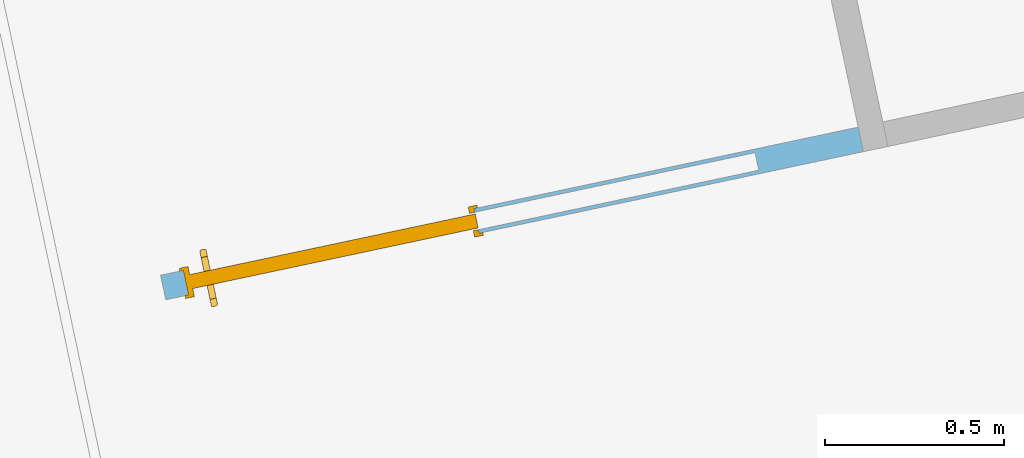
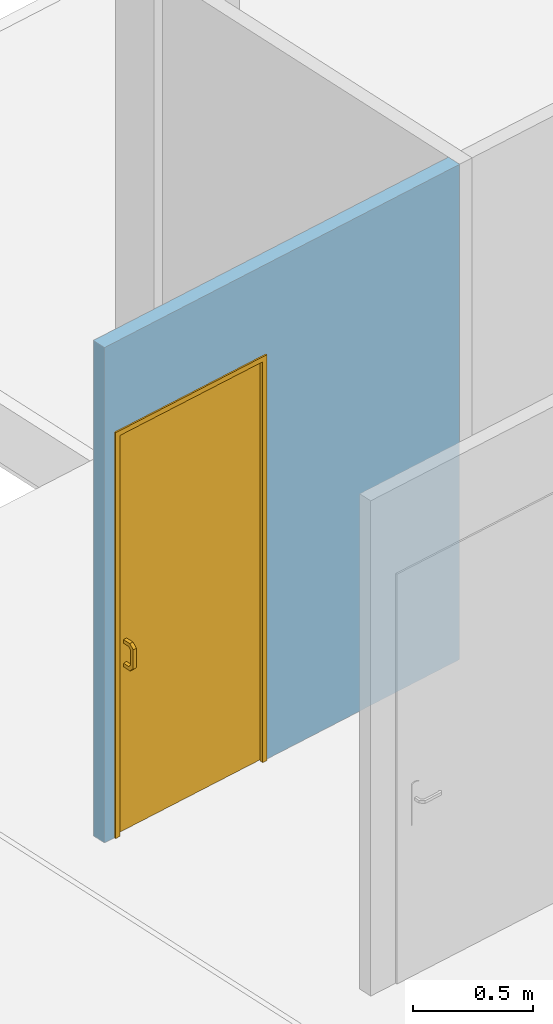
# One storey, part 8 of 11: 1 door, 1 opening, plus 1 element that does not belong to this part.
"""IFC2X3 building model written with IfcOpenShell, lengths in centimetres."""

import ifcopenshell
import ifcopenshell.guid

model = None  # the IFC model being written
_history = None  # IfcOwnerHistory: only IFC2X3 demands one
_inside = {}  # id of a spatial element -> (the spatial element, [elements in it])
_under = {}  # id of a project, library or spatial element -> (it, [spatial elements below it])
_declared = {}  # id of a project -> (the project, [libraries it declares])
_typed = {}  # id of a type object -> (the type object, [elements of that type])
_made_of = {}  # id of a material, layer set ... -> (it, [elements and type objects made of it])


def new_model(schema):
    """Start an empty IFC model of exactly this schema.

    Asked for "IFC4X3", IfcOpenShell would pick the latest addendum, in which some entities
    have other attributes; the version numbers below select the first issue.
    IFC2X3 requires an IfcOwnerHistory on every rooted entity: one is made here for all.
    """
    global model, _history
    if schema == "IFC4X3":
        model = ifcopenshell.file(schema_version=(4, 3, 0, 0))
    else:
        model = ifcopenshell.file(schema=schema)
    _inside.clear()
    _under.clear()
    _declared.clear()
    _typed.clear()
    _made_of.clear()
    _history = None
    if model.schema == "IFC2X3":
        org = make("IfcOrganization", Name="unknown")
        user = make(
            "IfcPersonAndOrganization",
            ThePerson=make("IfcPerson", FamilyName="unknown"),
            TheOrganization=org,
        )
        app = make(
            "IfcApplication",
            ApplicationDeveloper=org,
            Version="unknown",
            ApplicationFullName="unknown",
            ApplicationIdentifier="unknown",
        )
        _history = make(
            "IfcOwnerHistory",
            OwningUser=user,
            OwningApplication=app,
            ChangeAction="ADDED",
            CreationDate=0,
        )
    return model


def make(cls, **values):
    """One entity of the class cls with the attributes given. An attribute that is None is left unset."""
    return model.create_entity(
        cls, **{name: value for name, value in values.items() if value is not None}
    )


def entity(cls, *values):
    """Any entity or typed value of the class cls, its attributes in the order of the schema. None: left unset."""
    e = model.create_entity(cls)
    for i, value in enumerate(values):
        if value is not None:
            e[i] = value
    return e


def rooted(cls, **values):
    """An entity with a GlobalId (a new one), such as an element, a storey or a relation."""
    return make(cls, GlobalId=ifcopenshell.guid.new(), OwnerHistory=_history, **values)


def si_unit(unit_type, name, prefix=None):
    """IfcSIUnit, for example si_unit("LENGTHUNIT", "METRE", prefix="MILLI")."""
    return make("IfcSIUnit", UnitType=unit_type, Prefix=prefix, Name=name)


def converted_unit(unit_type, name, factor, base, dimensions=None, offset=None):
    """IfcConversionBasedUnit, such as the inch: factor (a typed value) times the base unit."""
    return make(
        "IfcConversionBasedUnit"
        if offset is None
        else "IfcConversionBasedUnitWithOffset",
        ConversionOffset=offset,
        Dimensions=None
        if dimensions is None
        else entity("IfcDimensionalExponents", *dimensions),
        UnitType=unit_type,
        Name=name,
        ConversionFactor=make(
            "IfcMeasureWithUnit", ValueComponent=factor, UnitComponent=base
        ),
    )


def derived_unit(unit_type, elements):
    """IfcDerivedUnit: a product of units, each with its exponent."""
    return make(
        "IfcDerivedUnit",
        Elements=[
            make("IfcDerivedUnitElement", Unit=unit, Exponent=power)
            for unit, power in elements
        ],
        UnitType=unit_type,
    )


def assignment(units):
    """IfcUnitAssignment: the units of a project."""
    return None if units is None else make("IfcUnitAssignment", Units=units)


def point(xyz):
    """IfcCartesianPoint."""
    return None if xyz is None else make("IfcCartesianPoint", Coordinates=xyz)


def direction(xyz):
    """IfcDirection."""
    return None if xyz is None else make("IfcDirection", DirectionRatios=xyz)


def frame(location, z_axis=None, x_axis=None):
    """IfcAxis2Placement3D, a coordinate frame: its origin and axes. An axis left out is left unset."""
    return make(
        "IfcAxis2Placement3D",
        Location=point(location),
        Axis=direction(z_axis),
        RefDirection=direction(x_axis),
    )


def frame_2d(location, x_axis=None):
    """IfcAxis2Placement2D, a coordinate frame in the plane: its origin and x axis."""
    return make(
        "IfcAxis2Placement2D", Location=point(location), RefDirection=direction(x_axis)
    )


def origin():
    """The frame at (0, 0, 0) with its axes left unset."""
    return frame((0.0, 0.0, 0.0))


def place(relative_to, where):
    """IfcLocalPlacement: puts the frame where relative to a parent placement (None: the world)."""
    return make(
        "IfcLocalPlacement", PlacementRelTo=relative_to, RelativePlacement=where
    )


def context(
    kind, dimensions, precision=None, world=None, true_north=None, identifier=None
):
    """IfcGeometricRepresentationContext, for example the 3D "Model" context."""
    return make(
        "IfcGeometricRepresentationContext",
        ContextIdentifier=identifier,
        ContextType=kind,
        CoordinateSpaceDimension=dimensions,
        Precision=precision,
        WorldCoordinateSystem=world,
        TrueNorth=true_north,
    )


def subcontext(parent, identifier, kind, view, scale=None):
    """IfcGeometricRepresentationSubContext, for example "Body" below "Model"."""
    return make(
        "IfcGeometricRepresentationSubContext",
        ContextIdentifier=identifier,
        ContextType=kind,
        ParentContext=parent,
        TargetScale=scale,
        TargetView=view,
    )


def project(units=None, contexts=None):
    """IfcProject with its units and contexts."""
    return rooted(
        "IfcProject",
        Name="project",
        RepresentationContexts=contexts,
        UnitsInContext=assignment(units),
    )


def spatial(cls, under=None, at=None, **own):
    """A site, building, storey or space (cls), placed at a placement, below another one or the project."""
    s = rooted(cls, ObjectPlacement=at, **own)
    if under is not None:
        _under.setdefault(under.id(), (under, []))[1].append(s)
    return s


def profile(cls, at=None, kind="AREA", **sizes):
    """A parametric profile (cls). Its sizes go by their IFC names, for example OverallWidth=200.0."""
    return make(cls, ProfileType=kind, Position=at, **sizes)


def rectangle(**sizes):
    """IfcRectangleProfileDef."""
    return profile("IfcRectangleProfileDef", **sizes)


def extrude(swept, where, along, depth):
    """IfcExtrudedAreaSolid: the profile swept, set in the frame where, extruded along a direction by depth."""
    return make(
        "IfcExtrudedAreaSolid",
        SweptArea=swept,
        Position=where,
        ExtrudedDirection=direction(along),
        Depth=depth,
    )


def faces_of(points, faces, orient=None, outer=None):
    """IfcFace entities. A face is a list of loops; a loop is a list of indices into points, from 0.

    orient and outer hold one flag for each loop. By default every Orientation is true, the
    first loop of a face is its IfcFaceOuterBound and the others are IfcFaceBound.
    """
    made = []
    for i, loops in enumerate(faces):
        bounds = []
        for j, loop in enumerate(loops):
            is_outer = j == 0 if outer is None else outer[i][j]
            bounds.append(
                make(
                    "IfcFaceOuterBound" if is_outer else "IfcFaceBound",
                    Bound=make("IfcPolyLoop", Polygon=[points[k] for k in loop]),
                    Orientation=True if orient is None else orient[i][j],
                )
            )
        made.append(make("IfcFace", Bounds=bounds))
    return made


def faceted_brep(points, faces, orient=None, outer=None, voids=None):
    """IfcFacetedBrep: a solid bounded by flat faces; with voids (closed shells), ...WithVoids."""
    shared = [point(p) for p in points]
    hull = make("IfcClosedShell", CfsFaces=faces_of(shared, faces, orient, outer))
    if voids is None:
        return make("IfcFacetedBrep", Outer=hull)
    return make(
        "IfcFacetedBrepWithVoids",
        Outer=hull,
        Voids=[
            make(cls, CfsFaces=faces_of(shared, fs, o, b)) for cls, fs, o, b in voids
        ],
    )


def shape(context_of_items, identifier, shape_type, items):
    """IfcShapeRepresentation: the items that make up one representation, for example the "Body"."""
    return make(
        "IfcShapeRepresentation",
        ContextOfItems=context_of_items,
        RepresentationIdentifier=identifier,
        RepresentationType=shape_type,
        Items=items,
    )


def source(mapping_origin, context_of_items, identifier, shape_type, items):
    """IfcRepresentationMap: a shape defined once, which mapped items show again and again."""
    return make(
        "IfcRepresentationMap",
        MappingOrigin=mapping_origin,
        MappedRepresentation=shape(context_of_items, identifier, shape_type, items),
    )


def transform(
    local_origin,
    x_axis=None,
    y_axis=None,
    z_axis=None,
    scale=None,
    scale2=None,
    scale3=None,
    uniform=True,
):
    """IfcCartesianTransformationOperator3D, or its non-uniform kind. x_axis, y_axis, z_axis: its Axis1, 2, 3."""
    if uniform:
        return make(
            "IfcCartesianTransformationOperator3D",
            Axis1=direction(x_axis),
            Axis2=direction(y_axis),
            LocalOrigin=point(local_origin),
            Scale=scale,
            Axis3=direction(z_axis),
        )
    return make(
        "IfcCartesianTransformationOperator3DnonUniform",
        Axis1=direction(x_axis),
        Axis2=direction(y_axis),
        LocalOrigin=point(local_origin),
        Scale=scale,
        Axis3=direction(z_axis),
        Scale2=scale2,
        Scale3=scale3,
    )


def mapped(mapping_source, mapping_target):
    """IfcMappedItem: shows the shape of a source again, moved by a transform."""
    return make(
        "IfcMappedItem", MappingSource=mapping_source, MappingTarget=mapping_target
    )


def material(Name=None, Category=None):
    """IfcMaterial."""
    return make("IfcMaterial", Name=Name, Category=Category)


def layer(
    of_material, thickness, ventilated=None, Name=None, Category=None, Priority=None
):
    """IfcMaterialLayer: one layer of a wall or slab, of a material (None: an air gap)."""
    return make(
        "IfcMaterialLayer",
        Material=of_material,
        LayerThickness=thickness,
        IsVentilated=ventilated,
        Name=Name,
        Category=Category,
        Priority=Priority,
    )


def layer_set(layers, Name=None):
    """IfcMaterialLayerSet."""
    return make("IfcMaterialLayerSet", MaterialLayers=layers, LayerSetName=Name)


def layer_usage(for_layer_set, set_direction, sense, offset, extent=None):
    """IfcMaterialLayerSetUsage: how a layer set lies in its element."""
    return make(
        "IfcMaterialLayerSetUsage",
        ForLayerSet=for_layer_set,
        LayerSetDirection=set_direction,
        DirectionSense=sense,
        OffsetFromReferenceLine=offset,
        ReferenceExtent=extent,
    )


def made_of(thing, what):
    """Note that an element or type object is made of a material, layer set ...; save() writes the relation."""
    if what is not None:
        _made_of.setdefault(what.id(), (what, []))[1].append(thing)
    return thing


def type_object(cls, material=None, **own):
    """A type object (cls), such as IfcWallType, which elements share."""
    return made_of(rooted(cls, **own), material)


def type_shapes(of_type, sources):
    """Give a type object the sources (RepresentationMaps) that its elements show as mapped items."""
    of_type.RepresentationMaps = sources


def element(
    cls,
    number,
    at=None,
    inside=None,
    cuts=None,
    type_object=None,
    material=None,
    context=None,
    identifier="Body",
    shape_type=None,
    held_by="IfcProductDefinitionShape",
    body=None,
    shapes=None,
    **own,
):
    """One element of the class cls, such as IfcWall. Its Tag is "e" and its number.

    at: its placement. inside: the storey or other place that contains it. cuts: it is an
    opening in that element (IfcRelVoidsElement). A single representation is given by context,
    identifier, shape_type and body (its items); several are given by shapes. held_by: the class
    of the entity that holds the representations. save() writes the other relations.
    """
    e = rooted(cls, Tag="e%d" % number, ObjectPlacement=at, **own)
    if body is not None:
        shapes = [shape(context, identifier, shape_type, body)]
    if shapes is not None:
        e.Representation = make(held_by, Representations=shapes)
    if inside is not None:
        _inside.setdefault(inside.id(), (inside, []))[1].append(e)
    if cuts is not None:
        rooted(
            "IfcRelVoidsElement", RelatingBuildingElement=cuts, RelatedOpeningElement=e
        )
    if type_object is not None:
        _typed.setdefault(type_object.id(), (type_object, []))[1].append(e)
    return made_of(e, material)


def fill(opening, filler):
    """IfcRelFillsElement: the door or window that sits in an opening."""
    return rooted(
        "IfcRelFillsElement",
        RelatingOpeningElement=opening,
        RelatedBuildingElement=filler,
    )


def aggregate(whole, parts):
    """IfcRelAggregates: a whole, such as a stair, and the parts it consists of."""
    return rooted("IfcRelAggregates", RelatingObject=whole, RelatedObjects=parts)


def save(model, path):
    """Write the relations noted so far, then the file.

    IfcRelAggregates (storeys below a building ...), IfcRelContainedInSpatialStructure (elements
    in a storey), IfcRelDefinesByType, IfcRelAssociatesMaterial and IfcRelDeclares: one each for
    every whole, place, type object, material and project.
    """
    for whole, parts in _under.values():
        aggregate(whole, parts)
    for where, things in _inside.values():
        rooted(
            "IfcRelContainedInSpatialStructure",
            RelatedElements=things,
            RelatingStructure=where,
        )
    for kind, things in _typed.values():
        rooted("IfcRelDefinesByType", RelatedObjects=things, RelatingType=kind)
    for what, things in _made_of.values():
        rooted("IfcRelAssociatesMaterial", RelatedObjects=things, RelatingMaterial=what)
    for by, libraries in _declared.values():
        rooted("IfcRelDeclares", RelatingContext=by, RelatedDefinitions=libraries)
    model.write(path)


model = new_model("IFC2X3")

# Units and contexts
model_context = context("Model", 3, precision=0.001, world=origin(), true_north=direction((6.12303176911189e-17, 1.0)))
body_context = subcontext(model_context, "Body", "Model", "MODEL_VIEW")
ifc_project = project(units=[si_unit("LENGTHUNIT", "METRE", prefix="CENTI"), si_unit("AREAUNIT", "SQUARE_METRE"), si_unit("VOLUMEUNIT", "CUBIC_METRE"), converted_unit("PLANEANGLEUNIT", "DEGREE", entity("IfcRatioMeasure", 0.0174532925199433), si_unit("PLANEANGLEUNIT", "RADIAN"), dimensions=[0, 0, 0, 0, 0, 0, 0]), si_unit("MASSUNIT", "GRAM", prefix="KILO"), derived_unit("MASSDENSITYUNIT", [(si_unit("MASSUNIT", "GRAM", prefix="KILO"), 1), (si_unit("LENGTHUNIT", "METRE"), -3)]), derived_unit("IONCONCENTRATIONUNIT", [(si_unit("MASSUNIT", "GRAM", prefix="KILO"), 1), (si_unit("LENGTHUNIT", "METRE"), -3)]), derived_unit("MOMENTOFINERTIAUNIT", [(si_unit("LENGTHUNIT", "METRE"), 4)]), si_unit("TIMEUNIT", "SECOND"), si_unit("FREQUENCYUNIT", "HERTZ"), si_unit("THERMODYNAMICTEMPERATUREUNIT", "DEGREE_CELSIUS"), derived_unit("THERMALTRANSMITTANCEUNIT", [(si_unit("MASSUNIT", "GRAM", prefix="KILO"), 1), (si_unit("THERMODYNAMICTEMPERATUREUNIT", "KELVIN"), -1), (si_unit("TIMEUNIT", "SECOND"), -3)]), derived_unit("THERMALCONDUCTANCEUNIT", [(si_unit("MASSUNIT", "GRAM", prefix="KILO"), 1), (si_unit("THERMODYNAMICTEMPERATUREUNIT", "KELVIN"), -1), (si_unit("TIMEUNIT", "SECOND"), -3), (si_unit("LENGTHUNIT", "METRE"), 1)]), derived_unit("VOLUMETRICFLOWRATEUNIT", [(si_unit("LENGTHUNIT", "METRE"), 3), (si_unit("TIMEUNIT", "SECOND"), -1)]), derived_unit("MASSFLOWRATEUNIT", [(si_unit("MASSUNIT", "GRAM", prefix="KILO"), 1), (si_unit("TIMEUNIT", "SECOND"), -1)]), derived_unit("ROTATIONALFREQUENCYUNIT", [(si_unit("TIMEUNIT", "SECOND"), -1)]), si_unit("ELECTRICCURRENTUNIT", "AMPERE"), si_unit("ELECTRICVOLTAGEUNIT", "VOLT"), si_unit("POWERUNIT", "WATT"), si_unit("FORCEUNIT", "NEWTON", prefix="KILO"), si_unit("ILLUMINANCEUNIT", "LUX"), si_unit("LUMINOUSFLUXUNIT", "LUMEN"), si_unit("LUMINOUSINTENSITYUNIT", "CANDELA"), derived_unit("USERDEFINED", [(si_unit("MASSUNIT", "GRAM", prefix="KILO"), -1), (si_unit("LENGTHUNIT", "METRE"), -2), (si_unit("TIMEUNIT", "SECOND"), 3), (si_unit("LUMINOUSFLUXUNIT", "LUMEN"), 1)]), derived_unit("USERDEFINED", [(si_unit("MASSUNIT", "GRAM", prefix="KILO"), 1), (si_unit("TIMEUNIT", "SECOND"), -3), (si_unit("LENGTHUNIT", "METRE"), 3), (si_unit("ELECTRICCURRENTUNIT", "AMPERE"), -2)]), derived_unit("SOUNDPOWERUNIT", [(si_unit("MASSUNIT", "GRAM", prefix="KILO"), 1), (si_unit("TIMEUNIT", "SECOND"), -3), (si_unit("LENGTHUNIT", "METRE"), 2)]), derived_unit("SOUNDPRESSUREUNIT", [(si_unit("MASSUNIT", "GRAM", prefix="KILO"), 1), (si_unit("LENGTHUNIT", "METRE"), -1), (si_unit("TIMEUNIT", "SECOND"), -2)]), derived_unit("LINEARVELOCITYUNIT", [(si_unit("LENGTHUNIT", "METRE"), 1), (si_unit("TIMEUNIT", "SECOND"), -1)]), si_unit("PRESSUREUNIT", "PASCAL"), derived_unit("USERDEFINED", [(si_unit("MASSUNIT", "GRAM", prefix="KILO"), 1), (si_unit("LENGTHUNIT", "METRE"), -2), (si_unit("TIMEUNIT", "SECOND"), -2)]), derived_unit("LINEARFORCEUNIT", [(si_unit("MASSUNIT", "GRAM", prefix="KILO"), 1), (si_unit("TIMEUNIT", "SECOND"), -2)]), derived_unit("PLANARFORCEUNIT", [(si_unit("MASSUNIT", "GRAM", prefix="KILO"), 1), (si_unit("LENGTHUNIT", "METRE"), -1), (si_unit("TIMEUNIT", "SECOND"), -2)]), derived_unit("SPECIFICHEATCAPACITYUNIT", [(si_unit("THERMODYNAMICTEMPERATUREUNIT", "KELVIN"), -1), (si_unit("LENGTHUNIT", "METRE"), 2), (si_unit("TIMEUNIT", "SECOND"), -2)]), derived_unit("HEATINGVALUEUNIT", [(si_unit("LENGTHUNIT", "METRE"), 2), (si_unit("TIMEUNIT", "SECOND"), -2)]), derived_unit("VAPORPERMEABILITYUNIT", [(si_unit("LENGTHUNIT", "METRE"), -1), (si_unit("TIMEUNIT", "SECOND"), 1)]), derived_unit("DYNAMICVISCOSITYUNIT", [(si_unit("MASSUNIT", "GRAM", prefix="KILO"), 1), (si_unit("TIMEUNIT", "SECOND"), -1), (si_unit("LENGTHUNIT", "METRE"), -1)]), derived_unit("THERMALEXPANSIONCOEFFICIENTUNIT", [(si_unit("THERMODYNAMICTEMPERATUREUNIT", "KELVIN"), -1)]), derived_unit("MODULUSOFELASTICITYUNIT", [(si_unit("MASSUNIT", "GRAM", prefix="KILO"), 1), (si_unit("LENGTHUNIT", "METRE"), -1), (si_unit("TIMEUNIT", "SECOND"), -2)]), derived_unit("ISOTHERMALMOISTURECAPACITYUNIT", [(si_unit("LENGTHUNIT", "METRE"), 3), (si_unit("MASSUNIT", "GRAM", prefix="KILO"), -1)]), derived_unit("MOISTUREDIFFUSIVITYUNIT", [(si_unit("TIMEUNIT", "SECOND"), -1), (si_unit("LENGTHUNIT", "METRE"), 2)])], contexts=[model_context])

# Site, building, storey
site_placement = place(None, frame((14083.8920177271, -6853.25409548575, 6900.0), z_axis=(0.0, 0.0, 1.0), x_axis=(0.978188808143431, 0.207717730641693, 0.0)))
site = spatial("IfcSite", under=ifc_project, at=site_placement, Name="Surface", CompositionType="ELEMENT")
building_placement = place(site_placement, origin())
building = spatial("IfcBuilding", under=site, at=building_placement, CompositionType="ELEMENT")
storey_placement = place(building_placement, frame((0.0, 0.0, 17.0)))
storey = spatial("IfcBuildingStorey", under=building, at=storey_placement, Name="Rez de chaussée", CompositionType="ELEMENT", Elevation=17.0000000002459)

# Wall, opening, door
ifc_material_1 = material(Name="__ BA 13")
ifc_layer = layer(ifc_material_1, 7.0)
ifc_layer_set = layer_set([ifc_layer], Name="Mur de base:*Cloison 72/48 cm")
ifc_layer_usage = layer_usage(ifc_layer_set, "AXIS2", "NEGATIVE", 3.5)
wall_type = type_object("IfcWallType", Name="Mur de base:*Cloison 72/48 cm", PredefinedType="STANDARD", material=ifc_layer_set)
wall_placement = place(storey_placement, frame((-7508.79714756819, 15232.1673447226, 0.0), z_axis=(0.0, 0.0, 1.0), x_axis=(-1.0, 0.0, 0.0)))
wall = element("IfcWallStandardCase", 1, at=wall_placement, inside=storey, type_object=wall_type, material=ifc_layer_usage, Name="Mur de base:*Cloison 72/48 cm", ObjectType="Mur de base:*Cloison 72/48 cm", context=body_context, shape_type="SweptSolid", body=[
    extrude(rectangle(XDim=199.157995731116, YDim=7.00000000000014, at=frame_2d((99.5789978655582, -1.3899992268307e-12), x_axis=(1.0, 0.0))), origin(), (0.0, 0.0, 1.0), 251.999999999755),
])
opening_placement = place(wall_placement, frame((192.657995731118, 18.5000000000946, 0.0), z_axis=(0.0, 0.0, 1.0), x_axis=(-1.0, 0.0, 0.0)))
opening = element("IfcOpeningElement", 2, at=opening_placement, cuts=wall, Name="Mur de base:*Cloison 72/48 cm", ObjectType="Opening", context=body_context, shape_type="Brep", body=[
    faceted_brep([(83.0, 37.0, 205.5), (0.0, 37.0, 205.5), (0.0, 0.0, 205.5), (83.0, 0.0, 205.5), (83.0, 16.0, 205.5), (163.0, 16.0, 205.5), (163.0, 21.0, 205.5), (83.0, 21.0, 205.5), (83.0, 37.0, 0.0), (83.0, 21.0, 0.0), (163.0, 21.0, 0.0), (163.0, 16.0, 0.0), (83.0, 16.0, 0.0), (83.0, 0.0, 0.0), (0.0, 0.0, 0.0), (0.0, 37.0, 0.0)], [[[0, 1, 2, 3, 4, 5, 6, 7]], [[8, 9, 10, 11, 12, 13, 14, 15]], [[1, 0, 8, 15]], [[2, 1, 15, 14]], [[3, 2, 14, 13]], [[4, 3, 13, 12]], [[5, 4, 12, 11]], [[6, 5, 11, 10]], [[7, 6, 10, 9]], [[0, 7, 9, 8]]]),
])
ifc_material_2 = material(Name="<Unnamed>")
door_style = type_object("IfcDoorStyle", Name="*Coulissante - Encastrée:PC 80 x 204 (galandage)", ConstructionType="NOTDEFINED", OperationType="SLIDING_TO_LEFT", ParameterTakesPrecedence=False, Sizeable=False, material=ifc_material_2)
shared_shape = source(origin(), body_context, "Body", "Brep", [
    faceted_brep([(156.963922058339, -16.5000000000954, 94.9316602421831), (157.4, -16.5000000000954, 95.1000000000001), (157.4, -16.5000000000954, 96.9), (156.963922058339, -16.5000000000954, 97.068339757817), (156.5, -16.5000000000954, 97.1255985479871), (156.036077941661, -16.5000000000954, 97.068339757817), (155.6, -16.5000000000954, 96.9), (155.6, -16.5000000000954, 95.1000000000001), (156.036077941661, -16.5000000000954, 94.931660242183), (156.5, -16.5000000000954, 94.874401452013), (156.963922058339, -16.5000000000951, 82.9316602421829), (157.4, -16.5000000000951, 83.1), (157.4, -16.5000000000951, 84.8999999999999), (156.963922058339, -16.5000000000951, 85.0683397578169), (156.5, -16.5000000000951, 85.125598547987), (156.036077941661, -16.5000000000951, 85.0683397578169), (155.6, -16.5000000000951, 84.8999999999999), (155.6, -16.5000000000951, 83.1), (156.036077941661, -16.5000000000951, 82.9316602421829), (156.5, -16.5000000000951, 82.8744014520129), (155.6, -13.3727922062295, 84.8999999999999), (155.6, -12.4000000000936, 85.8727922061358), (155.6, -12.4000000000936, 94.1272077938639), (155.6, -13.3727922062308, 95.1000000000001), (155.6, -12.6272077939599, 96.9), (155.6, -10.6000000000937, 94.8727922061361), (155.6, -10.6000000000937, 85.1272077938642), (155.6, -12.6272077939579, 83.1), (156.036077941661, -12.5574791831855, 97.068339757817), (156.5, -12.533761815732, 97.1255985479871), (156.963922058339, -12.5574791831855, 97.068339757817), (157.4, -12.6272077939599, 96.9), (157.4, -13.3727922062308, 95.1000000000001), (157.4, -12.4000000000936, 94.1272077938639), (157.4, -12.4000000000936, 85.8727922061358), (157.4, -13.3727922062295, 84.8999999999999), (157.4, -12.6272077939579, 83.1), (157.4, -10.6000000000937, 85.1272077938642), (157.4, -10.6000000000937, 94.8727922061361), (156.963922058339, -13.4425208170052, 94.9316602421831), (156.5, -13.4662381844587, 94.874401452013), (156.036077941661, -13.4425208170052, 94.931660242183), (156.036077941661, -10.4316602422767, 94.9425208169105), (156.5, -10.3744014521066, 94.9662381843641), (156.963922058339, -10.4316602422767, 94.9425208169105), (156.963922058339, -12.5683397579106, 94.0574791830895), (156.5, -12.6255985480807, 94.0337618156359), (156.036077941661, -12.5683397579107, 94.0574791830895), (156.036077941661, -10.4316602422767, 85.0574791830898), (156.5, -10.3744014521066, 85.0337618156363), (156.963922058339, -10.4316602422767, 85.0574791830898), (156.963922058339, -12.5683397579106, 85.9425208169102), (156.5, -12.6255985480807, 85.9662381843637), (156.036077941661, -12.5683397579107, 85.9425208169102), (156.036077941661, -12.5574791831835, 82.9316602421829), (156.5, -12.53376181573, 82.8744014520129), (156.963922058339, -12.5574791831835, 82.9316602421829), (156.963922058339, -13.4425208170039, 85.0683397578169), (156.5, -13.4662381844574, 85.125598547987), (156.036077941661, -13.4425208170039, 85.0683397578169)], [[[0, 1, 2, 3, 4, 5, 6, 7, 8, 9]], [[10, 11, 12, 13, 14, 15, 16, 17, 18, 19]], [[16, 20, 21, 22, 23, 7, 6, 24, 25, 26, 27, 17]], [[5, 28, 24, 6]], [[4, 29, 28, 5]], [[4, 3, 30, 29]], [[2, 31, 30, 3]], [[1, 32, 33, 34, 35, 12, 11, 36, 37, 38, 31, 2]], [[1, 0, 39, 32]], [[40, 39, 0, 9]], [[7, 23, 41, 8]], [[40, 9, 8, 41]], [[24, 28, 42, 25]], [[29, 43, 42, 28]], [[30, 44, 43, 29]], [[30, 31, 38, 44]], [[32, 39, 45, 33]], [[46, 45, 39, 40]], [[41, 23, 22, 47]], [[47, 46, 40, 41]], [[42, 48, 26, 25]], [[43, 49, 48, 42]], [[44, 50, 49, 43]], [[44, 38, 37, 50]], [[45, 51, 34, 33]], [[51, 45, 46, 52]], [[22, 21, 53, 47]], [[52, 46, 47, 53]], [[26, 48, 54, 27]], [[49, 55, 54, 48]], [[50, 56, 55, 49]], [[50, 37, 36, 56]], [[34, 51, 57, 35]], [[58, 57, 51, 52]], [[53, 21, 20, 59]], [[59, 58, 52, 53]], [[27, 54, 18, 17]], [[19, 18, 54, 55]], [[36, 11, 10, 56]], [[19, 55, 56, 10]], [[57, 13, 12, 35]], [[13, 57, 58, 14]], [[59, 20, 16, 15]], [[15, 14, 58, 59]]]),
    faceted_brep([(156.5, -20.5000000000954, 97.1255985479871), (156.963922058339, -20.5000000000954, 97.068339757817), (157.4, -20.5000000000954, 96.9), (157.4, -20.5000000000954, 95.1000000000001), (156.963922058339, -20.5000000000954, 94.931660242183), (156.5, -20.5000000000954, 94.874401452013), (156.036077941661, -20.5000000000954, 94.931660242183), (155.6, -20.5000000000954, 95.1000000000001), (155.6, -20.5000000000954, 96.9), (156.036077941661, -20.5000000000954, 97.068339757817), (156.963922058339, -20.5000000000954, 85.0683397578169), (157.4, -20.5000000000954, 84.8999999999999), (157.4, -20.5000000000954, 83.1), (156.963922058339, -20.5000000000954, 82.9316602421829), (156.5, -20.5000000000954, 82.8744014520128), (156.036077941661, -20.5000000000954, 82.9316602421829), (155.6, -20.5000000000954, 83.1), (155.6, -20.5000000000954, 84.8999999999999), (156.036077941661, -20.5000000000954, 85.0683397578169), (156.5, -20.5000000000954, 85.125598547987), (156.963922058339, -24.4425208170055, 97.068339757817), (157.4, -24.3727922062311, 96.9), (156.5, -24.4662381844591, 97.1255985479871), (156.036077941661, -24.4425208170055, 97.0683397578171), (155.6, -24.3727922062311, 96.9), (155.6, -23.6272077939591, 95.1000000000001), (155.6, -24.6000000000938, 94.1272077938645), (155.6, -24.6000000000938, 85.8727922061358), (155.6, -23.6272077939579, 84.8999999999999), (155.6, -24.3727922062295, 83.1), (155.6, -26.4000000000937, 85.1272077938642), (155.6, -26.4000000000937, 94.8727922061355), (156.036077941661, -23.5574791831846, 94.931660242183), (156.5, -23.5337618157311, 94.874401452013), (157.4, -23.6272077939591, 95.1000000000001), (156.963922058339, -23.5574791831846, 94.931660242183), (157.4, -23.6272077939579, 84.8999999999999), (157.4, -24.6000000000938, 85.8727922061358), (157.4, -24.6000000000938, 94.1272077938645), (157.4, -26.4000000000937, 94.8727922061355), (157.4, -26.4000000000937, 85.1272077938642), (157.4, -24.3727922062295, 83.1), (156.963922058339, -26.5683397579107, 94.9425208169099), (156.5, -26.6255985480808, 94.9662381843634), (156.036077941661, -26.5683397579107, 94.9425208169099), (156.036077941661, -24.4316602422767, 94.0574791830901), (156.5, -24.3744014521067, 94.0337618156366), (156.963922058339, -24.4316602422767, 94.0574791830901), (156.963922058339, -26.5683397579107, 85.0574791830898), (156.5, -26.6255985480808, 85.0337618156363), (156.036077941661, -26.5683397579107, 85.0574791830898), (156.036077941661, -24.4316602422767, 85.9425208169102), (156.5, -24.3744014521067, 85.9662381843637), (156.963922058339, -24.4316602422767, 85.9425208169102), (156.963922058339, -24.4425208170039, 82.9316602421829), (156.5, -24.4662381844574, 82.8744014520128), (156.036077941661, -24.4425208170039, 82.9316602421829), (156.036077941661, -23.5574791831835, 85.0683397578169), (156.5, -23.53376181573, 85.125598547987), (156.963922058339, -23.5574791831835, 85.0683397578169)], [[[0, 1, 2, 3, 4, 5, 6, 7, 8, 9]], [[10, 11, 12, 13, 14, 15, 16, 17, 18, 19]], [[1, 20, 21, 2]], [[0, 22, 20, 1]], [[0, 9, 23, 22]], [[8, 24, 23, 9]], [[7, 25, 26, 27, 28, 17, 16, 29, 30, 31, 24, 8]], [[7, 6, 32, 25]], [[33, 32, 6, 5]], [[3, 34, 35, 4]], [[33, 5, 4, 35]], [[11, 36, 37, 38, 34, 3, 2, 21, 39, 40, 41, 12]], [[20, 42, 39, 21]], [[22, 43, 42, 20]], [[23, 44, 43, 22]], [[23, 24, 31, 44]], [[25, 32, 45, 26]], [[46, 45, 32, 33]], [[35, 34, 38, 47]], [[47, 46, 33, 35]], [[42, 48, 40, 39]], [[43, 49, 48, 42]], [[44, 50, 49, 43]], [[44, 31, 30, 50]], [[45, 51, 27, 26]], [[51, 45, 46, 52]], [[38, 37, 53, 47]], [[52, 46, 47, 53]], [[48, 54, 41, 40]], [[49, 55, 54, 48]], [[50, 56, 55, 49]], [[50, 30, 29, 56]], [[27, 51, 57, 28]], [[58, 57, 51, 52]], [[53, 37, 36, 59]], [[59, 58, 52, 53]], [[41, 54, 13, 12]], [[14, 13, 54, 55]], [[29, 16, 15, 56]], [[14, 55, 56, 15]], [[57, 18, 17, 28]], [[18, 57, 58, 19]], [[59, 36, 11, 10]], [[10, 19, 58, 59]]]),
    faceted_brep([(161.5, -20.5000000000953, 204.0), (161.5, -16.5000000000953, 204.0), (80.0, -16.5000000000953, 204.0), (80.0, -20.5000000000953, 204.0), (161.5, -20.5000000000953, 0.0), (80.0, -20.5000000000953, 0.0), (80.0, -16.5000000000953, 0.0), (161.5, -16.5000000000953, 0.0)], [[[0, 1, 2, 3]], [[4, 5, 6, 7]], [[1, 0, 4, 7]], [[2, 1, 7, 6]], [[3, 2, 6, 5]], [[0, 3, 5, 4]]]),
    faceted_brep([(80.0, -15.0, 0.0), (79.0, -15.0, 0.0), (79.0, -14.2000000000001, 0.0), (81.5, -14.2000000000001, 0.0), (81.5, -16.0, 0.0), (80.0, -16.0, 0.0), (80.0, -15.0, 205.5), (163.0, -15.0, 205.5), (163.0, -15.0, 0.0), (164.0, -15.0, 0.0), (164.0, -15.0, 206.5), (79.0, -15.0, 206.5), (79.0, -14.2000000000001, 206.5), (164.0, -14.2000000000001, 206.5), (164.0, -14.2000000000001, 0.0), (161.5, -14.2000000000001, 0.0), (161.5, -14.2000000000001, 204.0), (81.5, -14.2000000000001, 204.0), (81.5, -16.0, 204.0), (80.0, -16.0, 204.0), (80.0, -22.0, 0.0), (80.0, -22.0, 205.5), (80.0, -21.0, 204.0), (80.0, -21.0, 0.0), (79.0, -22.8000000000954, 0.0), (81.5, -22.8000000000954, 0.0), (81.5, -22.8000000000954, 204.0), (161.5, -22.8000000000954, 204.0), (161.5, -22.8000000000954, 0.0), (164.0, -22.8000000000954, 0.0), (164.0, -22.8000000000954, 206.5), (79.0, -22.8000000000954, 206.5), (79.0, -22.0, 0.0), (79.0, -22.0, 206.5), (164.0, -22.0, 206.5), (164.0, -22.0, 0.0), (163.0, -22.0, 0.0), (163.0, -22.0, 205.5), (81.5, -21.0, 204.0), (81.5, -21.0, 0.0)], [[[0, 1, 2, 3, 4, 5]], [[1, 0, 6, 7, 8, 9, 10, 11]], [[2, 1, 11, 12]], [[3, 2, 12, 13, 14, 15, 16, 17]], [[3, 17, 18, 4]], [[18, 19, 5, 4]], [[20, 21, 6, 0, 5, 19, 22, 23]], [[24, 25, 26, 27, 28, 29, 30, 31]], [[32, 24, 31, 33]], [[20, 32, 33, 34, 35, 36, 37, 21]], [[22, 38, 39, 23]], [[8, 7, 37, 36]], [[9, 8, 36, 35, 29, 28, 15, 14]], [[10, 9, 14, 13]], [[16, 15, 28, 27]], [[30, 29, 35, 34]], [[6, 21, 37, 7]], [[11, 10, 13, 12]], [[17, 16, 27, 26, 38, 22, 19, 18]], [[31, 30, 34, 33]], [[26, 25, 39, 38]], [[25, 24, 32, 20, 23, 39]]]),
])
type_shapes(door_style, [shared_shape])
door_placement = place(opening_placement, frame((163.0, 0.0, 0.0), z_axis=(0.0, 0.0, 1.0), x_axis=(-1.0, 0.0, 0.0)))
door = element("IfcDoor", 3, at=door_placement, inside=storey, type_object=door_style, material=ifc_material_2, Name="*Coulissante - Encastrée:PC 80 x 204 (galandage)", ObjectType="*Coulissante - Encastrée:PC 80 x 204 (galandage)", OverallHeight=206.5, OverallWidth=164.000000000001, context=body_context, shape_type="MappedRepresentation", body=[
    mapped(shared_shape, transform((0.0, 0.0, 0.0), scale=1.0)),
])
fill(opening, door)

save(model, "model.ifc")
